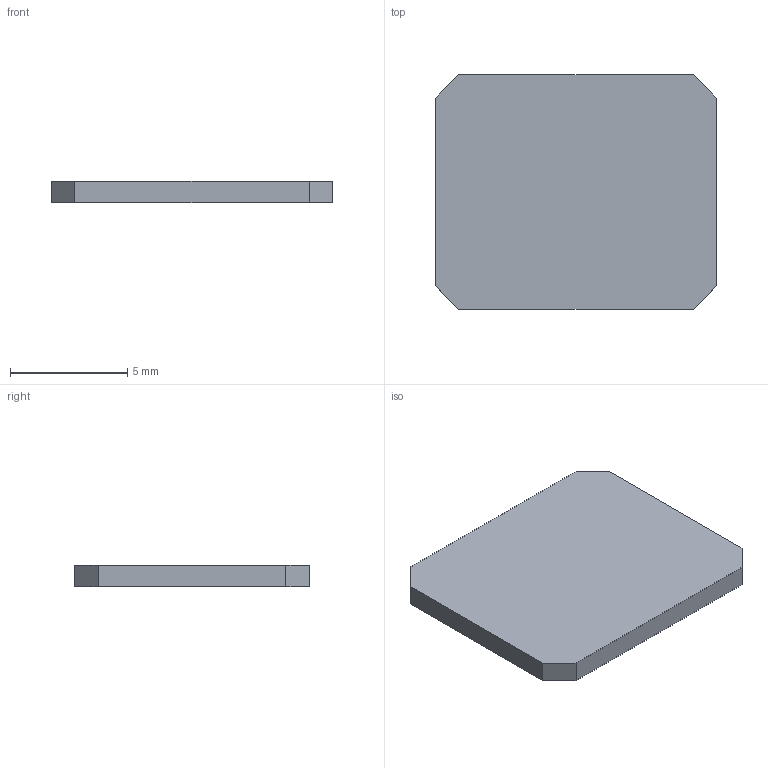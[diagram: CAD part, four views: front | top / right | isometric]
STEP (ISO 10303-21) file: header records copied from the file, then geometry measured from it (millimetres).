
FILE_DESCRIPTION(('Open CASCADE Model'),'2;1');
FILE_NAME('Open CASCADE Shape Model','2026-09-24T17:43:03',('Author'),( 'Open CASCADE'),'Open CASCADE STEP processor 7.8','Open CASCADE 7.8' ,'Unknown');
FILE_SCHEMA(('AUTOMOTIVE_DESIGN { 1 0 10303 214 1 1 1 1 }'));
Length unit declared in the file: millimetre
Products named in the file (1): Open CASCADE STEP translator 7.8 34
Bounding box: 12 x 10 x 0.91 mm (x, y, z)
Volume: 107.4 mm3; surface area: 273.9 mm2
Topology: 1 solids, 1 shells, 10 faces, 24 edges, 16 vertices
Faces by surface type: plane 10
Entity records: 610 total; most frequent: CARTESIAN_POINT 99, DIRECTION 94, LINE 72, VECTOR 72, ORIENTED_EDGE 48, PCURVE 48, DEFINITIONAL_REPRESENTATION 48, EDGE_CURVE 24
